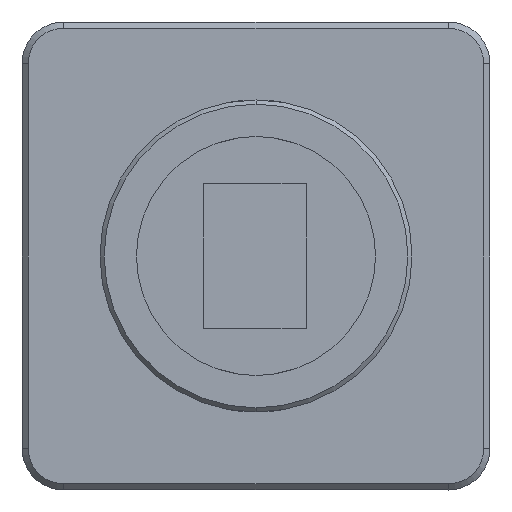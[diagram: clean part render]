
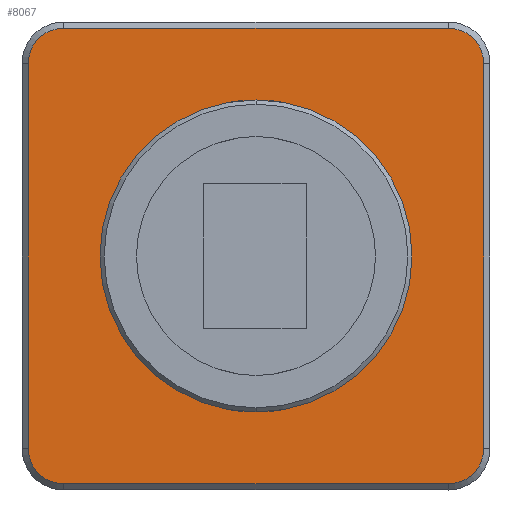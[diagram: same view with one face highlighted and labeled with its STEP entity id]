
A CAD part, front view. The second image highlights one B-rep face of the part: STEP entity #8067.
In plain terms, the highlighted planar face has unit normal (0, -1, 0).
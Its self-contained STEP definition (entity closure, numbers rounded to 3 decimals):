
#720 = CARTESIAN_POINT ( 'NONE',  ( -11.25, 0., -10.95 ) ) ;
#1330 = DIRECTION ( 'NONE',  ( 0., -1., 0. ) ) ;
#1362 = CARTESIAN_POINT ( 'NONE',  ( -9.25, 0., -9.25 ) ) ;
#1496 = VERTEX_POINT ( 'NONE', #16664 ) ;
#1530 = DIRECTION ( 'NONE',  ( 0., 0., 1. ) ) ;
#1923 = CARTESIAN_POINT ( 'NONE',  ( -11.25, 0., 10.95 ) ) ;
#2109 = VERTEX_POINT ( 'NONE', #3624 ) ;
#2254 = DIRECTION ( 'NONE',  ( -1., 0., 0. ) ) ;
#2337 = ORIENTED_EDGE ( 'NONE', *, *, #8934, .F. ) ;
#2664 = CARTESIAN_POINT ( 'NONE',  ( 0., 0., 0. ) ) ;
#2894 = EDGE_CURVE ( 'NONE', #7253, #17466, #9875, .T. ) ;
#2919 = PLANE ( 'NONE',  #8411 ) ;
#2964 = AXIS2_PLACEMENT_3D ( 'NONE', #2664, #1330, #1530 ) ;
#3276 = CARTESIAN_POINT ( 'NONE',  ( 10.95, 0., 11.25 ) ) ;
#3372 = EDGE_CURVE ( 'NONE', #14946, #2109, #9306, .T. ) ;
#3545 = CARTESIAN_POINT ( 'NONE',  ( -9.25, 0., 10.95 ) ) ;
#3624 = CARTESIAN_POINT ( 'NONE',  ( 9.25, 0., -10.95 ) ) ;
#3731 = VECTOR ( 'NONE', #11353, 1000. ) ;
#3954 = VERTEX_POINT ( 'NONE', #3545 ) ;
#4425 = DIRECTION ( 'NONE',  ( 0., -1., 0. ) ) ;
#4709 = ORIENTED_EDGE ( 'NONE', *, *, #3372, .F. ) ;
#4725 = DIRECTION ( 'NONE',  ( 0., 0., 1. ) ) ;
#4805 = CARTESIAN_POINT ( 'NONE',  ( 10.95, 0., 9.25 ) ) ;
#4831 = CIRCLE ( 'NONE', #5132, 1.7 ) ;
#4856 = DIRECTION ( 'NONE',  ( 0., 1., 0. ) ) ;
#4903 = DIRECTION ( 'NONE',  ( 0., 1., 0. ) ) ;
#5132 = AXIS2_PLACEMENT_3D ( 'NONE', #1362, #4856, #7131 ) ;
#5285 = VECTOR ( 'NONE', #2254, 1000. ) ;
#5335 = EDGE_CURVE ( 'NONE', #6521, #14256, #6892, .T. ) ;
#6303 = EDGE_CURVE ( 'NONE', #17466, #14946, #7450, .T. ) ;
#6479 = VECTOR ( 'NONE', #18125, 1000. ) ;
#6521 = VERTEX_POINT ( 'NONE', #7132 ) ;
#6817 = AXIS2_PLACEMENT_3D ( 'NONE', #11616, #17474, #15416 ) ;
#6892 = CIRCLE ( 'NONE', #14539, 7.5 ) ;
#7036 = DIRECTION ( 'NONE',  ( 0., 0., 1. ) ) ;
#7128 = CARTESIAN_POINT ( 'NONE',  ( -9.25, 0., -10.95 ) ) ;
#7131 = DIRECTION ( 'NONE',  ( 0., 0., 1. ) ) ;
#7132 = CARTESIAN_POINT ( 'NONE',  ( 0., 0., -7.5 ) ) ;
#7174 = CARTESIAN_POINT ( 'NONE',  ( -10.95, 0., 11.25 ) ) ;
#7253 = VERTEX_POINT ( 'NONE', #16324 ) ;
#7450 = LINE ( 'NONE', #3276, #14486 ) ;
#7498 = EDGE_CURVE ( 'NONE', #3954, #7253, #12256, .T. ) ;
#7767 = CARTESIAN_POINT ( 'NONE',  ( 9.25, 0., 9.25 ) ) ;
#7867 = CIRCLE ( 'NONE', #2964, 7.5 ) ;
#8067 = ADVANCED_FACE ( 'NONE', ( #10240, #16061 ), #2919, .F. ) ;
#8345 = AXIS2_PLACEMENT_3D ( 'NONE', #7767, #10618, #15016 ) ;
#8411 = AXIS2_PLACEMENT_3D ( 'NONE', #13562, #4903, #4725 ) ;
#8934 = EDGE_CURVE ( 'NONE', #12570, #1496, #14538, .T. ) ;
#9306 = CIRCLE ( 'NONE', #6817, 1.7 ) ;
#9875 = CIRCLE ( 'NONE', #8345, 1.7 ) ;
#10240 = FACE_BOUND ( 'NONE', #17785, .T. ) ;
#10348 = EDGE_LOOP ( 'NONE', ( #13428, #4709, #18000, #11857, #13911, #14132, #2337, #18432 ) ) ;
#10618 = DIRECTION ( 'NONE',  ( 0., 1., 0. ) ) ;
#11037 = CARTESIAN_POINT ( 'NONE',  ( -9.25, 0., 9.25 ) ) ;
#11112 = CARTESIAN_POINT ( 'NONE',  ( 10.95, 0., -9.25 ) ) ;
#11353 = DIRECTION ( 'NONE',  ( 0., 0., 1. ) ) ;
#11616 = CARTESIAN_POINT ( 'NONE',  ( 9.25, 0., -9.25 ) ) ;
#11857 = ORIENTED_EDGE ( 'NONE', *, *, #2894, .F. ) ;
#12256 = LINE ( 'NONE', #1923, #6479 ) ;
#12497 = ORIENTED_EDGE ( 'NONE', *, *, #17599, .F. ) ;
#12570 = VERTEX_POINT ( 'NONE', #18142 ) ;
#12741 = EDGE_CURVE ( 'NONE', #18429, #12570, #4831, .T. ) ;
#13178 = DIRECTION ( 'NONE',  ( 0., 0., -1. ) ) ;
#13428 = ORIENTED_EDGE ( 'NONE', *, *, #15204, .F. ) ;
#13562 = CARTESIAN_POINT ( 'NONE',  ( -11.25, 0., 11.25 ) ) ;
#13894 = ORIENTED_EDGE ( 'NONE', *, *, #5335, .F. ) ;
#13911 = ORIENTED_EDGE ( 'NONE', *, *, #7498, .F. ) ;
#14108 = DIRECTION ( 'NONE',  ( 0., 1., 0. ) ) ;
#14132 = ORIENTED_EDGE ( 'NONE', *, *, #18385, .F. ) ;
#14256 = VERTEX_POINT ( 'NONE', #17625 ) ;
#14486 = VECTOR ( 'NONE', #13178, 1000. ) ;
#14538 = LINE ( 'NONE', #7174, #3731 ) ;
#14539 = AXIS2_PLACEMENT_3D ( 'NONE', #17280, #4425, #7036 ) ;
#14946 = VERTEX_POINT ( 'NONE', #11112 ) ;
#15016 = DIRECTION ( 'NONE',  ( 0., 0., 1. ) ) ;
#15204 = EDGE_CURVE ( 'NONE', #2109, #18429, #15294, .T. ) ;
#15294 = LINE ( 'NONE', #720, #5285 ) ;
#15416 = DIRECTION ( 'NONE',  ( 0., 0., 1. ) ) ;
#16061 = FACE_OUTER_BOUND ( 'NONE', #10348, .T. ) ;
#16134 = CIRCLE ( 'NONE', #17051, 1.7 ) ;
#16324 = CARTESIAN_POINT ( 'NONE',  ( 9.25, 0., 10.95 ) ) ;
#16664 = CARTESIAN_POINT ( 'NONE',  ( -10.95, 0., 9.25 ) ) ;
#16994 = DIRECTION ( 'NONE',  ( 0., 0., 1. ) ) ;
#17051 = AXIS2_PLACEMENT_3D ( 'NONE', #11037, #14108, #16994 ) ;
#17280 = CARTESIAN_POINT ( 'NONE',  ( 0., 0., 0. ) ) ;
#17466 = VERTEX_POINT ( 'NONE', #4805 ) ;
#17474 = DIRECTION ( 'NONE',  ( 0., 1., 0. ) ) ;
#17599 = EDGE_CURVE ( 'NONE', #14256, #6521, #7867, .T. ) ;
#17625 = CARTESIAN_POINT ( 'NONE',  ( 0., 0., 7.5 ) ) ;
#17785 = EDGE_LOOP ( 'NONE', ( #12497, #13894 ) ) ;
#18000 = ORIENTED_EDGE ( 'NONE', *, *, #6303, .F. ) ;
#18125 = DIRECTION ( 'NONE',  ( 1., 0., 0. ) ) ;
#18142 = CARTESIAN_POINT ( 'NONE',  ( -10.95, 0., -9.25 ) ) ;
#18385 = EDGE_CURVE ( 'NONE', #1496, #3954, #16134, .T. ) ;
#18429 = VERTEX_POINT ( 'NONE', #7128 ) ;
#18432 = ORIENTED_EDGE ( 'NONE', *, *, #12741, .F. ) ;
